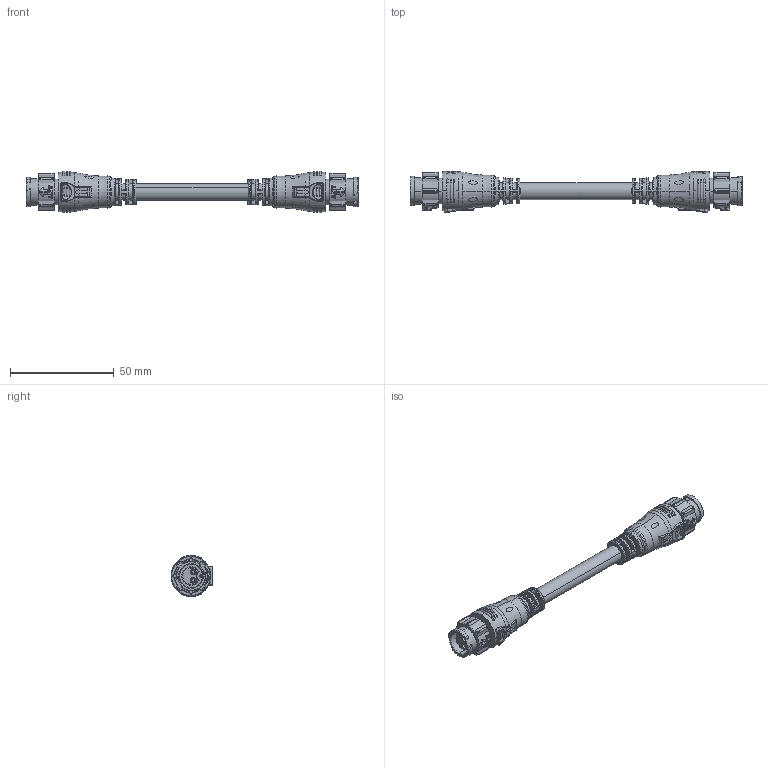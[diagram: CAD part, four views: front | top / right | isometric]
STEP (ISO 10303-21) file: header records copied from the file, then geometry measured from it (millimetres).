
FILE_DESCRIPTION((''),'2;1');
FILE_NAME('AB-BB02HL-BBHL-QEXXX_SW0001','2021-10-14T',('L050004'),(''),'PRO/ENGINEER BY PARAMETRIC TECHNOLOGY CORPORATION, 2017170','PRO/ENGINEER BY PARAMETRIC TECHNOLOGY CORPORATION, 2017170','');
FILE_SCHEMA(('CONFIG_CONTROL_DESIGN'));
Products named in the file (1): AB-BB02HL-BBHL-QEXXX_SW0001
Bounding box: 159.95 x 20.07 x 20.09 mm (x, y, z)
Volume: 21368.1 mm3; surface area: 10319.7 mm2
Topology: 1 solids, 2 shells, 1258 faces, 3226 edges, 2042 vertices
Faces by surface type: plane 360, bspline 332, cylinder 230, extrusion 148, torus 80, revolution 58, cone 40, sphere 10
Entity records: 62088 total; most frequent: CARTESIAN_POINT 34915, ORIENTED_EDGE 6452, DIRECTION 4290, EDGE_CURVE 3226, VERTEX_POINT 2042, B_SPLINE_CURVE_WITH_KNOTS 1604, AXIS2_PLACEMENT_3D 1536, EDGE_LOOP 1328
